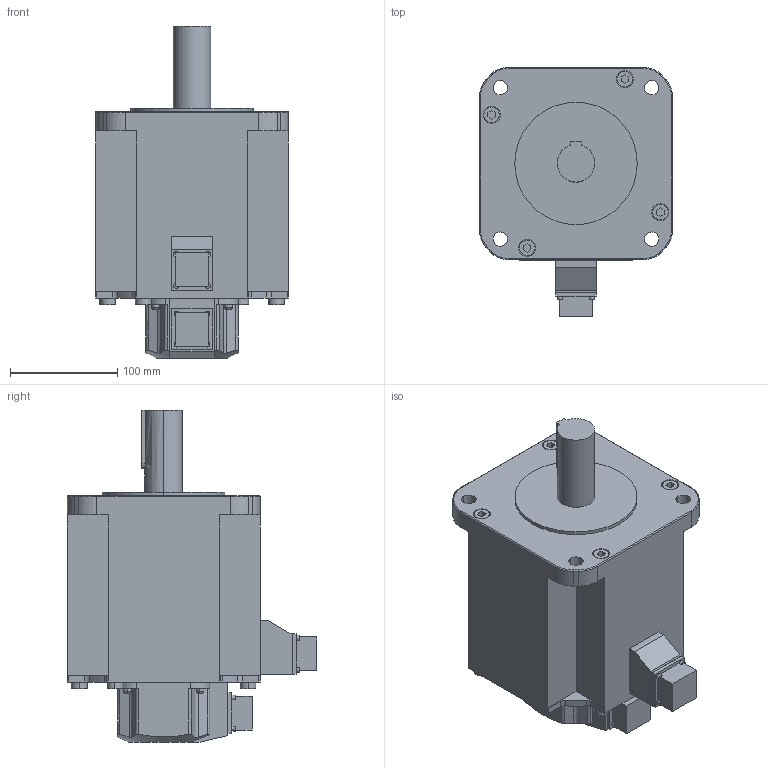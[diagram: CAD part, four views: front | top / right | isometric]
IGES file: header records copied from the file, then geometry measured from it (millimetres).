
Start section:  PTC IGES file: rsmh_40ask3.igs
Global section: file name: rsmh_40ask3.igs; native system: Pro/ENGINEER by Parametric Technology Corporation; preprocessor: 2004440; author: Administrator; organization: Unknown; date: 070829.192518; units: millimetre
Bounding box: 180 x 233 x 310 mm (x, y, z)
Volume: 5315384.1 mm3; surface area: 234756.5 mm2
Topology: 1 solids, 1 shells, 290 faces, 744 edges, 488 vertices
Faces by surface type: bspline 164, revolution 126
